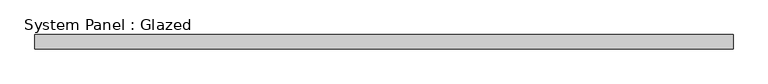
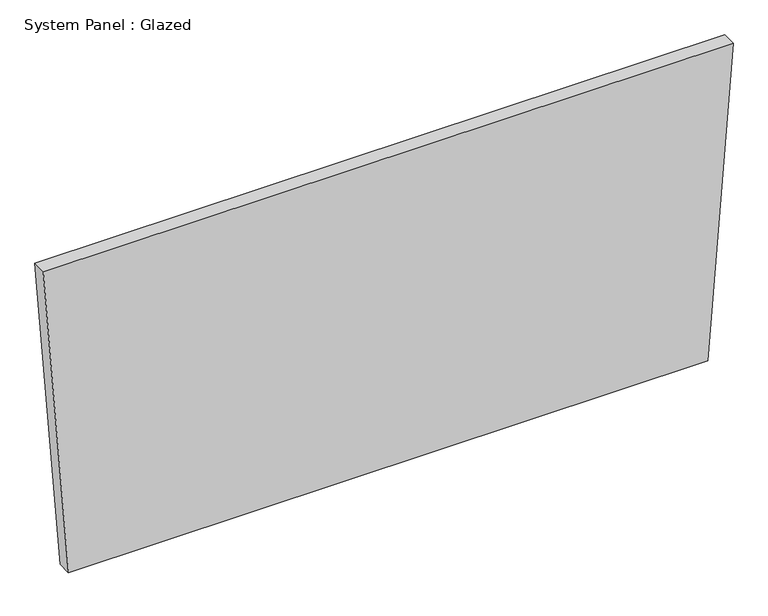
"""IFC4 building model written with IfcOpenShell, lengths in millimetres: plate geometry, System Panel : Glazed."""

import ifcopenshell
import ifcopenshell.guid

model = None  # the IFC model being written
_history = None  # IfcOwnerHistory: only IFC2X3 demands one
_inside = {}  # id of a spatial element -> (the spatial element, [elements in it])
_under = {}  # id of a project, library or spatial element -> (it, [spatial elements below it])
_declared = {}  # id of a project -> (the project, [libraries it declares])
_typed = {}  # id of a type object -> (the type object, [elements of that type])
_made_of = {}  # id of a material, layer set ... -> (it, [elements and type objects made of it])


def new_model(schema):
    """Start an empty IFC model of exactly this schema.

    Asked for "IFC4X3", IfcOpenShell would pick the latest addendum, in which some entities
    have other attributes; the version numbers below select the first issue.
    IFC2X3 requires an IfcOwnerHistory on every rooted entity: one is made here for all.
    """
    global model, _history
    if schema == "IFC4X3":
        model = ifcopenshell.file(schema_version=(4, 3, 0, 0))
    else:
        model = ifcopenshell.file(schema=schema)
    _inside.clear()
    _under.clear()
    _declared.clear()
    _typed.clear()
    _made_of.clear()
    _history = None
    if model.schema == "IFC2X3":
        org = make("IfcOrganization", Name="unknown")
        user = make(
            "IfcPersonAndOrganization",
            ThePerson=make("IfcPerson", FamilyName="unknown"),
            TheOrganization=org,
        )
        app = make(
            "IfcApplication",
            ApplicationDeveloper=org,
            Version="unknown",
            ApplicationFullName="unknown",
            ApplicationIdentifier="unknown",
        )
        _history = make(
            "IfcOwnerHistory",
            OwningUser=user,
            OwningApplication=app,
            ChangeAction="ADDED",
            CreationDate=0,
        )
    return model


def make(cls, **values):
    """One entity of the class cls with the attributes given. An attribute that is None is left unset."""
    return model.create_entity(
        cls, **{name: value for name, value in values.items() if value is not None}
    )


def rooted(cls, **values):
    """An entity with a GlobalId (a new one), such as an element, a storey or a relation."""
    return make(cls, GlobalId=ifcopenshell.guid.new(), OwnerHistory=_history, **values)


def si_unit(unit_type, name, prefix=None):
    """IfcSIUnit, for example si_unit("LENGTHUNIT", "METRE", prefix="MILLI")."""
    return make("IfcSIUnit", UnitType=unit_type, Prefix=prefix, Name=name)


def assignment(units):
    """IfcUnitAssignment: the units of a project."""
    return None if units is None else make("IfcUnitAssignment", Units=units)


def point(xyz):
    """IfcCartesianPoint."""
    return None if xyz is None else make("IfcCartesianPoint", Coordinates=xyz)


def direction(xyz):
    """IfcDirection."""
    return None if xyz is None else make("IfcDirection", DirectionRatios=xyz)


def frame(location, z_axis=None, x_axis=None):
    """IfcAxis2Placement3D, a coordinate frame: its origin and axes. An axis left out is left unset."""
    return make(
        "IfcAxis2Placement3D",
        Location=point(location),
        Axis=direction(z_axis),
        RefDirection=direction(x_axis),
    )


def origin():
    """The frame at (0, 0, 0) with its axes left unset."""
    return frame((0.0, 0.0, 0.0))


def place(relative_to, where):
    """IfcLocalPlacement: puts the frame where relative to a parent placement (None: the world)."""
    return make(
        "IfcLocalPlacement", PlacementRelTo=relative_to, RelativePlacement=where
    )


def context(
    kind, dimensions, precision=None, world=None, true_north=None, identifier=None
):
    """IfcGeometricRepresentationContext, for example the 3D "Model" context."""
    return make(
        "IfcGeometricRepresentationContext",
        ContextIdentifier=identifier,
        ContextType=kind,
        CoordinateSpaceDimension=dimensions,
        Precision=precision,
        WorldCoordinateSystem=world,
        TrueNorth=true_north,
    )


def project(units=None, contexts=None):
    """IfcProject with its units and contexts."""
    return rooted(
        "IfcProject",
        Name="project",
        RepresentationContexts=contexts,
        UnitsInContext=assignment(units),
    )


def spatial(cls, under=None, at=None, **own):
    """A site, building, storey or space (cls), placed at a placement, below another one or the project."""
    s = rooted(cls, ObjectPlacement=at, **own)
    if under is not None:
        _under.setdefault(under.id(), (under, []))[1].append(s)
    return s


def polyline(points):
    """IfcPolyline through the points."""
    return make("IfcPolyline", Points=[point(p) for p in points])


def outline(outer, holes=None, kind="AREA"):
    """IfcArbitraryClosedProfileDef: a profile drawn as a closed curve; with holes, ...WithVoids."""
    if holes is None:
        return make("IfcArbitraryClosedProfileDef", ProfileType=kind, OuterCurve=outer)
    return make(
        "IfcArbitraryProfileDefWithVoids",
        ProfileType=kind,
        OuterCurve=outer,
        InnerCurves=holes,
    )


def extrude(swept, where, along, depth):
    """IfcExtrudedAreaSolid: the profile swept, set in the frame where, extruded along a direction by depth."""
    return make(
        "IfcExtrudedAreaSolid",
        SweptArea=swept,
        Position=where,
        ExtrudedDirection=direction(along),
        Depth=depth,
    )


def shape(context_of_items, identifier, shape_type, items):
    """IfcShapeRepresentation: the items that make up one representation, for example the "Body"."""
    return make(
        "IfcShapeRepresentation",
        ContextOfItems=context_of_items,
        RepresentationIdentifier=identifier,
        RepresentationType=shape_type,
        Items=items,
    )


def source(mapping_origin, context_of_items, identifier, shape_type, items):
    """IfcRepresentationMap: a shape defined once, which mapped items show again and again."""
    return make(
        "IfcRepresentationMap",
        MappingOrigin=mapping_origin,
        MappedRepresentation=shape(context_of_items, identifier, shape_type, items),
    )


def transform(
    local_origin,
    x_axis=None,
    y_axis=None,
    z_axis=None,
    scale=None,
    scale2=None,
    scale3=None,
    uniform=True,
):
    """IfcCartesianTransformationOperator3D, or its non-uniform kind. x_axis, y_axis, z_axis: its Axis1, 2, 3."""
    if uniform:
        return make(
            "IfcCartesianTransformationOperator3D",
            Axis1=direction(x_axis),
            Axis2=direction(y_axis),
            LocalOrigin=point(local_origin),
            Scale=scale,
            Axis3=direction(z_axis),
        )
    return make(
        "IfcCartesianTransformationOperator3DnonUniform",
        Axis1=direction(x_axis),
        Axis2=direction(y_axis),
        LocalOrigin=point(local_origin),
        Scale=scale,
        Axis3=direction(z_axis),
        Scale2=scale2,
        Scale3=scale3,
    )


def mapped(mapping_source, mapping_target):
    """IfcMappedItem: shows the shape of a source again, moved by a transform."""
    return make(
        "IfcMappedItem", MappingSource=mapping_source, MappingTarget=mapping_target
    )


def made_of(thing, what):
    """Note that an element or type object is made of a material, layer set ...; save() writes the relation."""
    if what is not None:
        _made_of.setdefault(what.id(), (what, []))[1].append(thing)
    return thing


def element(
    cls,
    number,
    at=None,
    inside=None,
    cuts=None,
    type_object=None,
    material=None,
    context=None,
    identifier="Body",
    shape_type=None,
    held_by="IfcProductDefinitionShape",
    body=None,
    shapes=None,
    **own,
):
    """One element of the class cls, such as IfcWall. Its Tag is "e" and its number.

    at: its placement. inside: the storey or other place that contains it. cuts: it is an
    opening in that element (IfcRelVoidsElement). A single representation is given by context,
    identifier, shape_type and body (its items); several are given by shapes. held_by: the class
    of the entity that holds the representations. save() writes the other relations.
    """
    e = rooted(cls, Tag="e%d" % number, ObjectPlacement=at, **own)
    if body is not None:
        shapes = [shape(context, identifier, shape_type, body)]
    if shapes is not None:
        e.Representation = make(held_by, Representations=shapes)
    if inside is not None:
        _inside.setdefault(inside.id(), (inside, []))[1].append(e)
    if cuts is not None:
        rooted(
            "IfcRelVoidsElement", RelatingBuildingElement=cuts, RelatedOpeningElement=e
        )
    if type_object is not None:
        _typed.setdefault(type_object.id(), (type_object, []))[1].append(e)
    return made_of(e, material)


def aggregate(whole, parts):
    """IfcRelAggregates: a whole, such as a stair, and the parts it consists of."""
    return rooted("IfcRelAggregates", RelatingObject=whole, RelatedObjects=parts)


def save(model, path):
    """Write the relations noted so far, then the file.

    IfcRelAggregates (storeys below a building ...), IfcRelContainedInSpatialStructure (elements
    in a storey), IfcRelDefinesByType, IfcRelAssociatesMaterial and IfcRelDeclares: one each for
    every whole, place, type object, material and project.
    """
    for whole, parts in _under.values():
        aggregate(whole, parts)
    for where, things in _inside.values():
        rooted(
            "IfcRelContainedInSpatialStructure",
            RelatedElements=things,
            RelatingStructure=where,
        )
    for kind, things in _typed.values():
        rooted("IfcRelDefinesByType", RelatedObjects=things, RelatingType=kind)
    for what, things in _made_of.values():
        rooted("IfcRelAssociatesMaterial", RelatedObjects=things, RelatingMaterial=what)
    for by, libraries in _declared.values():
        rooted("IfcRelDeclares", RelatingContext=by, RelatedDefinitions=libraries)
    model.write(path)


def system_panel_glazed_11031df9(model_context):
    return source(origin(), model_context, "Body", "SweptSolid", [
        extrude(outline(polyline([(0.0, -569.5199227), (0.0, 569.5199227), (582.3974987, 614.406303), (582.3974987, -614.406303), (0.0, -569.5199227)])), frame((0.0, 19.05, 0.0), z_axis=(0.0, 1.0, 0.0), x_axis=(0.0, 0.0, 1.0)), (0.0, 0.0, 1.0), 25.4),
    ])


if __name__ == "__main__":
    model = new_model("IFC4")
    model_context = context("Model", 3, world=origin())
    ifc_project = project(units=[si_unit("LENGTHUNIT", "METRE", prefix="MILLI")], contexts=[model_context])
    site = spatial("IfcSite", under=ifc_project)
    building = spatial("IfcBuilding", under=site)
    placement = place(None, origin())
    system_panel_glazed_shape = system_panel_glazed_11031df9(model_context)
    element("IfcPlate", 1, ObjectType="System Panel : Glazed", at=placement, inside=building, context=model_context, shape_type="MappedRepresentation", body=[
        mapped(system_panel_glazed_shape, transform((0.0, 0.0, 0.0), x_axis=(1.0, 0.0, 0.0), y_axis=(0.0, 1.0, 0.0), z_axis=(0.0, 0.0, 1.0))),
    ])
    save(model, "model.ifc")
